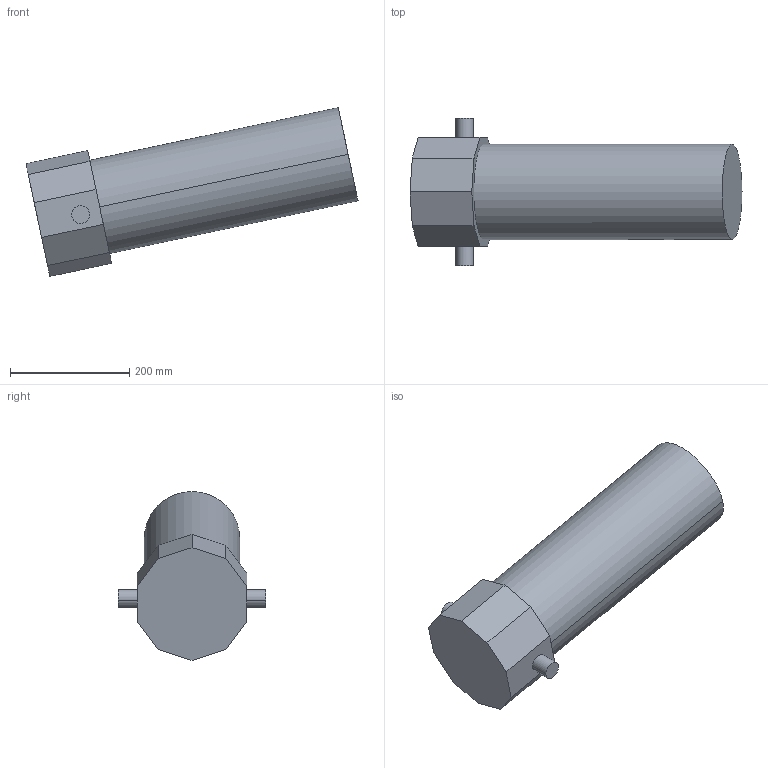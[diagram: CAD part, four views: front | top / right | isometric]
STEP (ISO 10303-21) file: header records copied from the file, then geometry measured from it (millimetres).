
FILE_DESCRIPTION (( 'STEP AP214' ), '1' );
FILE_NAME ('IRB4400_60_m2000_rev1_01-5.STEP', '2001-11-21T06:59:00', ( 'Jonas Eriksson' ), ( 'Evotech Engineering AB' ), 'SwSTEP 2.0', 'SolidWorks 2001287', '' );
FILE_SCHEMA (( 'AUTOMOTIVE_DESIGN' ));
Length unit declared in the file: millimetre
Products named in the file (1): IRB4400_60_m2000_rev1_01-5
Bounding box: 557.58 x 248 x 283.4 mm (x, y, z)
Volume: 11535657.8 mm3; surface area: 338788.9 mm2
Topology: 1 solids, 1 shells, 21 faces, 48 edges, 32 vertices
Faces by surface type: plane 15, cylinder 6
Entity records: 617 total; most frequent: DIRECTION 104, CARTESIAN_POINT 102, ORIENTED_EDGE 96, EDGE_CURVE 48, LINE 36, VECTOR 36, AXIS2_PLACEMENT_3D 34, VERTEX_POINT 32
